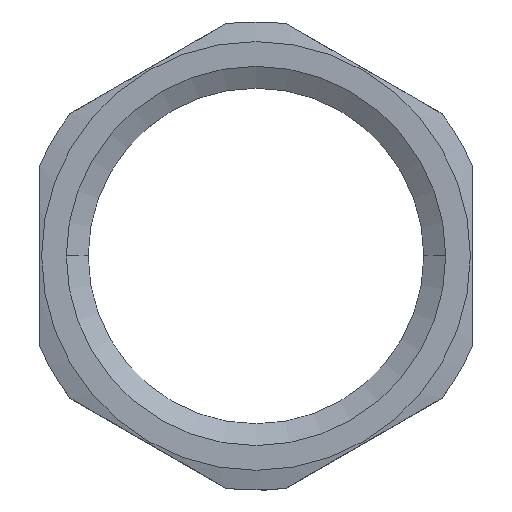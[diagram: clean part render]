
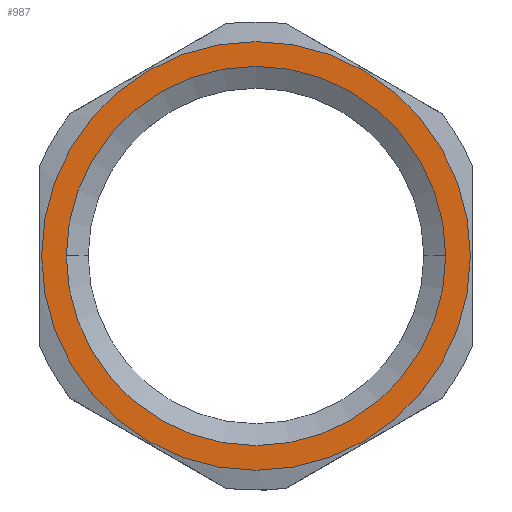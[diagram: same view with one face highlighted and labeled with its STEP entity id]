
A CAD part, top view. The second image highlights one B-rep face of the part: STEP entity #987.
In plain terms, the highlighted planar face has unit normal (0, 0, 1).
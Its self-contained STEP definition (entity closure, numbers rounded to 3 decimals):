
#904 = EDGE_CURVE ( 'NONE', #1051, #1052, #1523, .T. ) ;
#955 = VERTEX_POINT ( 'NONE', #1847 ) ;
#957 = EDGE_CURVE ( 'NONE', #955, #958, #1846, .T. ) ;
#958 = VERTEX_POINT ( 'NONE', #1841 ) ;
#987 = ADVANCED_FACE ( 'NONE', ( #1908, #1907 ), #1906, .F. ) ;
#988 = ORIENTED_EDGE ( 'NONE', *, *, #997, .T. ) ;
#997 = EDGE_CURVE ( 'NONE', #1052, #1051, #1876, .T. ) ;
#998 = ORIENTED_EDGE ( 'NONE', *, *, #904, .T. ) ;
#1013 = EDGE_LOOP ( 'NONE', ( #988, #998 ) ) ;
#1051 = VERTEX_POINT ( 'NONE', #1695 ) ;
#1052 = VERTEX_POINT ( 'NONE', #1694 ) ;
#1058 = EDGE_LOOP ( 'NONE', ( #1059, #1061 ) ) ;
#1059 = ORIENTED_EDGE ( 'NONE', *, *, #1060, .F. ) ;
#1060 = EDGE_CURVE ( 'NONE', #958, #955, #1686, .T. ) ;
#1061 = ORIENTED_EDGE ( 'NONE', *, *, #957, .F. ) ;
#1493 = CARTESIAN_POINT ( 'NONE',  ( 0., 0., 0. ) ) ;
#1498 = AXIS2_PLACEMENT_3D ( 'NONE', #1493, #1672, #1668 ) ;
#1519 = DIRECTION ( 'NONE',  ( 1., 0., 0. ) ) ;
#1520 = DIRECTION ( 'NONE',  ( 0., 0., 1. ) ) ;
#1521 = CARTESIAN_POINT ( 'NONE',  ( 0., 0., 0. ) ) ;
#1522 = AXIS2_PLACEMENT_3D ( 'NONE', #1521, #1520, #1519 ) ;
#1523 = CIRCLE ( 'NONE', #1522, 11.9 ) ;
#1668 = DIRECTION ( 'NONE',  ( 1., 0., 0. ) ) ;
#1672 = DIRECTION ( 'NONE',  ( 0., 0., 1. ) ) ;
#1686 = CIRCLE ( 'NONE', #1498, 10.528 ) ;
#1694 = CARTESIAN_POINT ( 'NONE',  ( -11.9, 0., 0. ) ) ;
#1695 = CARTESIAN_POINT ( 'NONE',  ( 11.9, 0., 0. ) ) ;
#1841 = CARTESIAN_POINT ( 'NONE',  ( 10.528, 0., 0. ) ) ;
#1842 = DIRECTION ( 'NONE',  ( 1., 0., 0. ) ) ;
#1843 = DIRECTION ( 'NONE',  ( 0., 0., 1. ) ) ;
#1844 = CARTESIAN_POINT ( 'NONE',  ( 0., 0., 0. ) ) ;
#1845 = AXIS2_PLACEMENT_3D ( 'NONE', #1844, #1843, #1842 ) ;
#1846 = CIRCLE ( 'NONE', #1845, 10.528 ) ;
#1847 = CARTESIAN_POINT ( 'NONE',  ( -10.528, 0., 0. ) ) ;
#1873 = DIRECTION ( 'NONE',  ( 1., 0., 0. ) ) ;
#1874 = DIRECTION ( 'NONE',  ( 0., 0., 1. ) ) ;
#1875 = AXIS2_PLACEMENT_3D ( 'NONE', #1881, #1874, #1873 ) ;
#1876 = CIRCLE ( 'NONE', #1875, 11.9 ) ;
#1881 = CARTESIAN_POINT ( 'NONE',  ( 0., 0., 0. ) ) ;
#1902 = DIRECTION ( 'NONE',  ( -1., 0., 0. ) ) ;
#1903 = DIRECTION ( 'NONE',  ( 0., 0., -1. ) ) ;
#1904 = CARTESIAN_POINT ( 'NONE',  ( 0., 0., 0. ) ) ;
#1905 = AXIS2_PLACEMENT_3D ( 'NONE', #1904, #1903, #1902 ) ;
#1906 = PLANE ( 'NONE',  #1905 ) ;
#1907 = FACE_BOUND ( 'NONE', #1058, .T. ) ;
#1908 = FACE_OUTER_BOUND ( 'NONE', #1013, .T. ) ;
